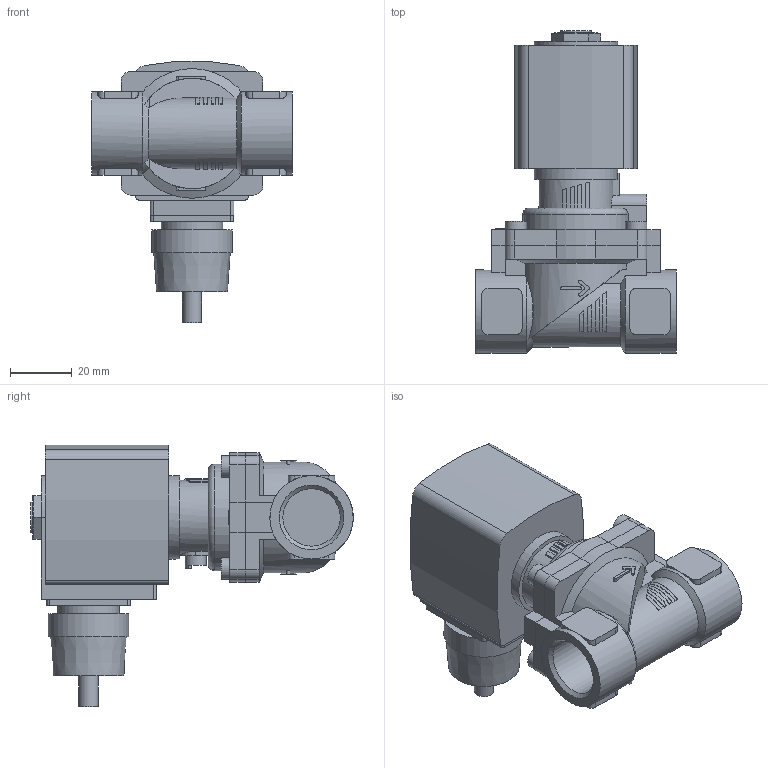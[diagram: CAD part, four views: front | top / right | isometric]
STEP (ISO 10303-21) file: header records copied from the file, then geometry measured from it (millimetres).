
FILE_DESCRIPTION(/* description */ ('STEP AP214'),/* implementation_level */ '2;1');
FILE_NAME(/* name */ '6281-369436-2_2-Way_Solenoid_Valve__Servo-assisted__General_Purpose',/* time_stamp */ '2024-06-21T14:40:48+02:00',/* author */ ('License CC BY-ND 4.0'),/* organization */ ('CADENAS'),/* preprocessor_version */ 'ST-DEVELOPER v19.3',/* originating_system */ 'PARTsolutions',/* authorisation */ ' ');
FILE_SCHEMA (('AUTOMOTIVE_DESIGN {1 0 10303 214 3 1 1}'));
Length unit declared in the file: millimetre
Products named in the file (4): 6281-369436-2/2-Way Solenoid Valve, Servo-assisted, General Purpose; 5281ev131MS2/2-Wege-Magnetventil mit Servomembran-Deckel 42 ; 6213-13G1/2MS-Gehaeuse-lang; AC10ex-6ATEXKabelPlan-Coil
Assembly tree (3 placements, depth 2):
  6281-369436-2/2-Way Solenoid Valve, Servo-assisted, General Purpose
    5281ev131MS2/2-Wege-Magnetventil mit Servomembran-Deckel 42 
    6213-13G1/2MS-Gehaeuse-lang
    AC10ex-6ATEXKabelPlan-Coil
Bounding box: 65 x 104.5 x 84.63 mm (x, y, z)
Volume: 152361.3 mm3; surface area: 33394.5 mm2
Topology: 3 solids, 3 shells, 318 faces, 818 edges, 535 vertices
Faces by surface type: plane 205, cylinder 99, cone 13, torus 1
Full cylindrical faces by diameter (mm): 6.2 x1, 6.8 x1, 7 x4, 9.74 x1, 18.631 x2, 20 x1, 26 x1, 27 x3
Entity records: 10802 total; most frequent: CARTESIAN_POINT 1892, DIRECTION 1638, ORIENTED_EDGE 1586, EDGE_CURVE 793, AXIS2_PLACEMENT_3D 588, VERTEX_POINT 528, LINE 462, VECTOR 462
